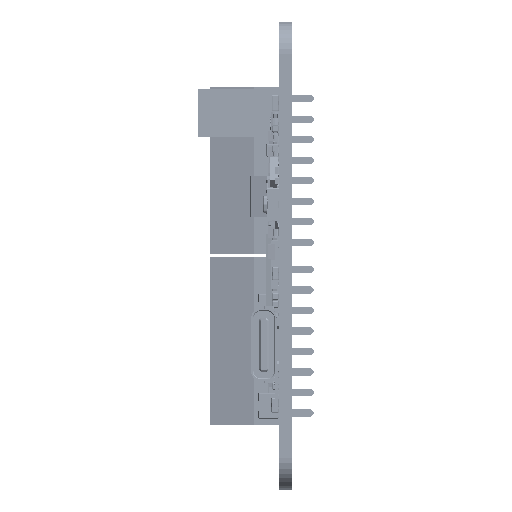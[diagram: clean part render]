
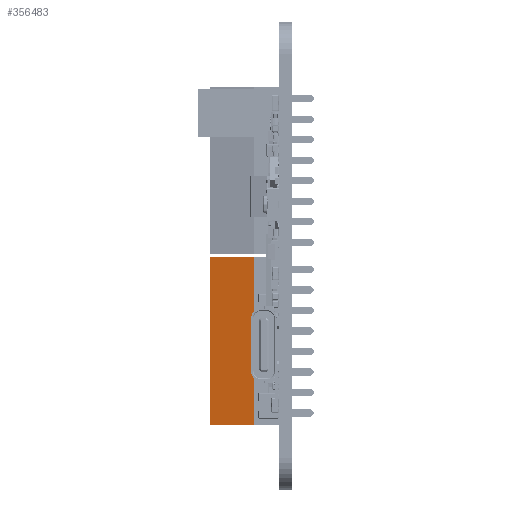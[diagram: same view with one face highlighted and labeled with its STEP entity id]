
A CAD part, left-side view. The second image highlights one B-rep face of the part: STEP entity #356483.
In plain terms, the highlighted planar face has unit normal (-0.977, 0.213, 0) as drawn and (0.977, 0.213, 0) by its records, which use the part's own axes.
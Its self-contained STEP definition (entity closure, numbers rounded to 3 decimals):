
#36056 = VECTOR ( 'NONE', #54571, 1000. ) ;
#36084 = LINE ( 'NONE', #54502, #36056 ) ;
#51883 = CARTESIAN_POINT ( 'NONE',  ( 1.9, 8.5, 10.39 ) ) ;
#52011 = CARTESIAN_POINT ( 'NONE',  ( 3.1, 3., 10.39 ) ) ;
#52201 = CARTESIAN_POINT ( 'NONE',  ( 1.9, 8.5, -10.39 ) ) ;
#52399 = CARTESIAN_POINT ( 'NONE',  ( 3.1, 3., -10.39 ) ) ;
#54502 = CARTESIAN_POINT ( 'NONE',  ( 3.1, 3., 7.62 ) ) ;
#54571 = DIRECTION ( 'NONE',  ( 0., 0., 1. ) ) ;
#64503 = VECTOR ( 'NONE', #90099, 1000. ) ;
#64662 = LINE ( 'NONE', #90172, #64503 ) ;
#65110 = LINE ( 'NONE', #90798, #65166 ) ;
#65166 = VECTOR ( 'NONE', #90941, 1000. ) ;
#65444 = LINE ( 'NONE', #91439, #65507 ) ;
#65507 = VECTOR ( 'NONE', #91362, 1000. ) ;
#90099 = DIRECTION ( 'NONE',  ( 0., 0., 1. ) ) ;
#90172 = CARTESIAN_POINT ( 'NONE',  ( 1.9, 8.5, 7.62 ) ) ;
#90798 = CARTESIAN_POINT ( 'NONE',  ( 1.9, 8.5, -10.39 ) ) ;
#90941 = DIRECTION ( 'NONE',  ( 0.213, -0.977, 0. ) ) ;
#91362 = DIRECTION ( 'NONE',  ( -0.213, 0.977, 0. ) ) ;
#91439 = CARTESIAN_POINT ( 'NONE',  ( 3.1, 3., 10.39 ) ) ;
#96113 = AXIS2_PLACEMENT_3D ( 'NONE', #341857, #341827, #341860 ) ;
#269106 = ORIENTED_EDGE ( 'NONE', *, *, #293206, .F. ) ;
#293206 = EDGE_CURVE ( 'NONE', #500385, #500180, #36084, .T. ) ;
#293584 = EDGE_CURVE ( 'NONE', #500305, #500157, #64662, .T. ) ;
#293644 = EDGE_CURVE ( 'NONE', #500305, #500385, #65110, .T. ) ;
#293680 = EDGE_CURVE ( 'NONE', #500180, #500157, #65444, .T. ) ;
#302430 = ORIENTED_EDGE ( 'NONE', *, *, #293680, .F. ) ;
#302448 = ORIENTED_EDGE ( 'NONE', *, *, #293584, .T. ) ;
#302608 = ORIENTED_EDGE ( 'NONE', *, *, #293644, .F. ) ;
#337030 = FACE_OUTER_BOUND ( 'NONE', #524230, .T. ) ;
#341827 = DIRECTION ( 'NONE',  ( 0.977, 0.213, 0. ) ) ;
#341857 = CARTESIAN_POINT ( 'NONE',  ( 3.1, 3., 7.62 ) ) ;
#341860 = DIRECTION ( 'NONE',  ( -0.213, 0.977, 0. ) ) ;
#341875 = PLANE ( 'NONE',  #96113 ) ;
#356483 = ADVANCED_FACE ( 'NONE', ( #337030 ), #341875, .T. ) ;
#500157 = VERTEX_POINT ( 'NONE', #51883 ) ;
#500180 = VERTEX_POINT ( 'NONE', #52011 ) ;
#500305 = VERTEX_POINT ( 'NONE', #52201 ) ;
#500385 = VERTEX_POINT ( 'NONE', #52399 ) ;
#524230 = EDGE_LOOP ( 'NONE', ( #302448, #302430, #269106, #302608 ) ) ;
